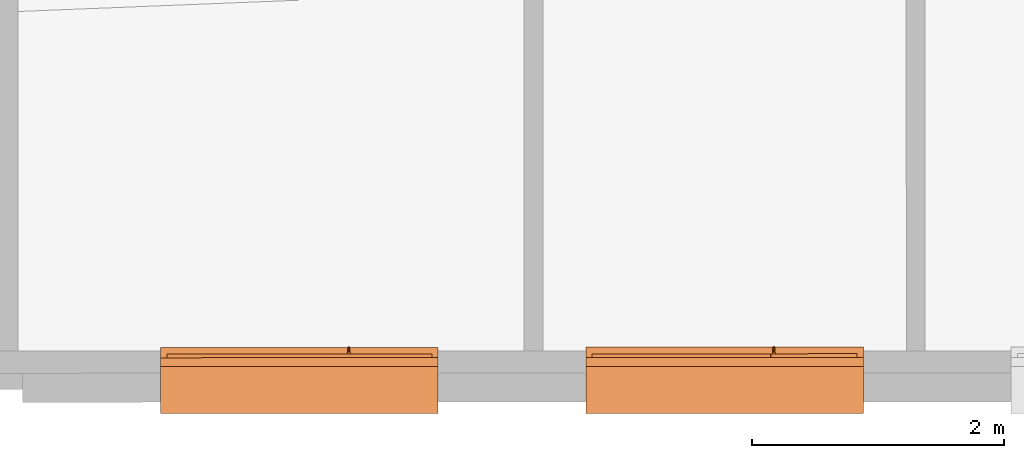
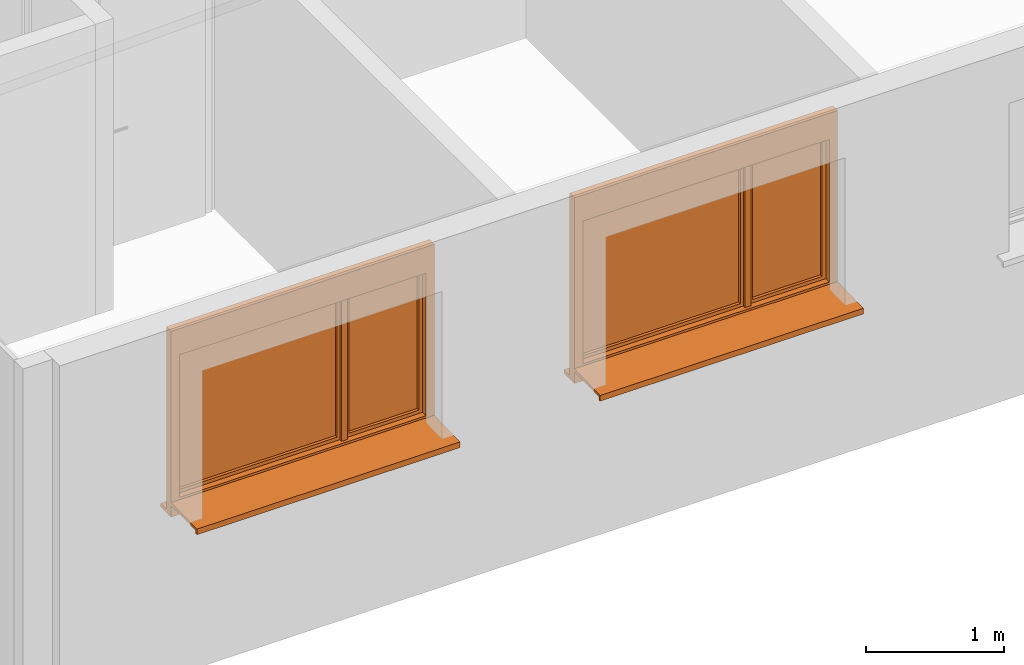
# One storey, part 3 of 8: 2 proxies.
"""IFC2X3 building model written with IfcOpenShell, lengths in metres."""

from ifc_helpers import new_model, entity, si_unit, converted_unit, derived_unit, direction, frame, origin, origin_with_axes, place, context, subcontext, project, spatial, closed_shell, open_shell, surface_model, source, transform, mapped, element, save


model = new_model("IFC2X3")

# Units and contexts
model_context = context("Model", 3, precision=1e-05, world=origin(), true_north=direction((0.772621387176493, -0.634867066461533)))
body_context = subcontext(model_context, "Body", "Model", "MODEL_VIEW")
ifc_project = project(units=[si_unit("LENGTHUNIT", "METRE"), si_unit("AREAUNIT", "SQUARE_METRE"), si_unit("VOLUMEUNIT", "CUBIC_METRE"), si_unit("MASSUNIT", "GRAM", prefix="KILO"), converted_unit("PLANEANGLEUNIT", "DEGREE", entity("IfcPlaneAngleMeasure", 0.0174532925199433), si_unit("PLANEANGLEUNIT", "RADIAN"), dimensions=[0, 0, 0, 0, 0, 0, 0]), derived_unit("THERMALTRANSMITTANCEUNIT", [(si_unit("POWERUNIT", "WATT"), 1), (si_unit("THERMODYNAMICTEMPERATUREUNIT", "KELVIN"), -1), (si_unit("LENGTHUNIT", "METRE"), -2)]), derived_unit("VOLUMETRICFLOWRATEUNIT", [(si_unit("LENGTHUNIT", "METRE"), 3), (converted_unit("TIMEUNIT", "hour", entity("IfcTimeMeasure", 3600.0), si_unit("TIMEUNIT", "SECOND"), dimensions=[0, 0, 1, 0, 0, 0, 0]), -1), (si_unit("LENGTHUNIT", "METRE"), -1)])], contexts=[model_context])

# Site, building, storey
site_placement = place(None, origin())
site = spatial("IfcSite", under=ifc_project, at=site_placement, Name="Modelle auf dem Nullpunkt", CompositionType="ELEMENT")
building_placement = place(site_placement, origin())
building = spatial("IfcBuilding", under=site, at=building_placement, Name="I", CompositionType="ELEMENT")
storey_placement = place(building_placement, origin())
storey = spatial("IfcBuildingStorey", under=building, at=storey_placement, Name="2.OG", CompositionType="ELEMENT", Elevation=0.0)

# Proxies
shared_shape_1 = source(origin_with_axes(), body_context, "Body", "SurfaceModel", [
    surface_model("IfcShellBasedSurfaceModel", [(0.0, 0.020000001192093, 0.1), (0.0, 0.372500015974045, 0.1), (0.0, 0.372500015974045, 0.13), (0.0, 0.0, 0.12), (0.0, 0.0, 0.07), (0.0, 0.020000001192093, 0.07), (2.19999999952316, 0.372500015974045, 0.1), (2.2, 0.020000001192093, 0.1), (2.2, 0.020000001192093, 0.07), (2.2, 0.0, 0.07), (2.2, 0.0, 0.12), (2.19999999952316, 0.372500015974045, 0.13)], [closed_shell([[[0, 1, 2, 3, 4, 5]], [[6, 7, 8, 9, 10, 11]], [[1, 0, 7, 6]], [[2, 1, 6, 11]], [[3, 2, 11, 10]], [[4, 3, 10, 9]], [[5, 4, 9, 8]], [[0, 5, 8, 7]]], orient=[[False], [False], [False], [False], [False], [False], [False], [False]])]),
    surface_model("IfcShellBasedSurfaceModel", [(0.0, 0.525000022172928, 0.0), (0.0, 0.525000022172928, 0.03), (0.0, 0.412500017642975, 0.03), (0.0, 0.412500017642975, 0.0), (2.2, 0.412500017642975, 0.0), (2.2, 0.412500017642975, 0.03), (2.19999999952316, 0.525000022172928, 0.03), (2.19999999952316, 0.525000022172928, 0.0)], [closed_shell([[[0, 1, 2, 3]], [[4, 5, 6, 7]], [[3, 4, 7, 0]], [[2, 5, 4, 3]], [[1, 6, 5, 2]], [[0, 7, 6, 1]]], orient=[[False], [False], [False], [False], [False], [False]])]),
    surface_model("IfcShellBasedSurfaceModel", [(0.0, 0.442500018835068, 1.64), (0.0, 0.442500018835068, 0.0), (0.0700000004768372, 0.442500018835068, 0.0), (0.0700000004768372, 0.442500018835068, 1.64), (0.0, 0.372500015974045, 0.0), (0.0, 0.372500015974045, 1.64), (0.07, 0.372500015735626, 1.64), (0.07, 0.372500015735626, 0.0)], [closed_shell([[[0, 1, 2, 3]], [[4, 5, 6, 7]], [[1, 0, 5, 4]], [[2, 1, 4, 7]], [[3, 2, 7, 6]], [[0, 3, 6, 5]]], orient=[[False], [False], [False], [False], [False], [False]])]),
    surface_model("IfcShellBasedSurfaceModel", [(2.12999999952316, 0.442500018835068, 1.64), (2.12999999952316, 0.442500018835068, 0.0), (2.2, 0.442500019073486, 0.0), (2.2, 0.442500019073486, 1.64), (2.12999999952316, 0.372500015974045, 0.0), (2.12999999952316, 0.372500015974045, 1.64), (2.19999999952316, 0.372500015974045, 1.64), (2.19999999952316, 0.372500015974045, 0.0)], [closed_shell([[[0, 1, 2, 3]], [[4, 5, 6, 7]], [[1, 0, 5, 4]], [[2, 1, 4, 7]], [[3, 2, 7, 6]], [[0, 3, 6, 5]]], orient=[[False], [False], [False], [False], [False], [False]])]),
    surface_model("IfcShellBasedSurfaceModel", [(0.0700000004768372, 0.442500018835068, 0.15), (0.0700000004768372, 0.442500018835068, 0.0), (2.12999999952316, 0.442500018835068, 0.0), (2.12999999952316, 0.442500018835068, 0.15), (0.07, 0.372500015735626, 0.0), (0.07, 0.372500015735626, 0.15), (2.12999999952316, 0.372500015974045, 0.15), (2.12999999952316, 0.372500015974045, 0.0)], [closed_shell([[[0, 1, 2, 3]], [[4, 5, 6, 7]], [[1, 0, 5, 4]], [[2, 1, 4, 7]], [[3, 2, 7, 6]], [[0, 3, 6, 5]]], orient=[[False], [False], [False], [False], [False], [False]])]),
    surface_model("IfcShellBasedSurfaceModel", [(0.0700000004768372, 0.442500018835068, 1.64), (0.0700000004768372, 0.442500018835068, 1.41), (2.12999999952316, 0.442500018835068, 1.41), (2.12999999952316, 0.442500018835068, 1.64), (0.07, 0.372500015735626, 1.41), (0.07, 0.372500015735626, 1.64), (2.12999999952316, 0.372500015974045, 1.64), (2.12999999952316, 0.372500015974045, 1.41)], [closed_shell([[[0, 1, 2, 3]], [[4, 5, 6, 7]], [[1, 0, 5, 4]], [[2, 1, 4, 7]], [[3, 2, 7, 6]], [[0, 3, 6, 5]]], orient=[[False], [False], [False], [False], [False], [False]])]),
    surface_model("IfcShellBasedSurfaceModel", [(0.0500000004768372, 0.472500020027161, 1.43), (0.0500000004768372, 0.472500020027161, 0.13), (0.100000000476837, 0.472500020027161, 0.13), (0.100000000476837, 0.472500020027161, 1.43), (0.0500000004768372, 0.422500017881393, 0.13), (0.0500000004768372, 0.422500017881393, 1.43), (0.1, 0.422500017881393, 1.43), (0.1, 0.422500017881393, 0.13)], [closed_shell([[[0, 1, 2, 3]], [[4, 5, 6, 7]], [[1, 0, 5, 4]], [[2, 1, 4, 7]], [[3, 2, 7, 6]], [[0, 3, 6, 5]]], orient=[[False], [False], [False], [False], [False], [False]])]),
    surface_model("IfcShellBasedSurfaceModel", [(1.41498387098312, 0.472500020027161, 1.43), (1.41498387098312, 0.472500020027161, 0.13), (1.46498387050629, 0.472500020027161, 0.13), (1.46498387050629, 0.472500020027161, 1.43), (1.41498387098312, 0.422500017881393, 0.13), (1.41498387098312, 0.422500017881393, 1.43), (1.46498387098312, 0.422500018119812, 1.43), (1.46498387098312, 0.422500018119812, 0.13)], [closed_shell([[[0, 1, 2, 3]], [[4, 5, 6, 7]], [[1, 0, 5, 4]], [[2, 1, 4, 7]], [[3, 2, 7, 6]], [[0, 3, 6, 5]]], orient=[[False], [False], [False], [False], [False], [False]])]),
    surface_model("IfcShellBasedSurfaceModel", [(0.100000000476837, 0.472500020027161, 0.18), (0.100000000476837, 0.472500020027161, 0.13), (1.41498387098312, 0.472500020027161, 0.13), (1.41498387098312, 0.472500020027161, 0.18), (0.1, 0.422500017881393, 0.13), (0.1, 0.422500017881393, 0.18), (1.41498387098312, 0.422500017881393, 0.18), (1.41498387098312, 0.422500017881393, 0.13)], [closed_shell([[[0, 1, 2, 3]], [[4, 5, 6, 7]], [[1, 0, 5, 4]], [[2, 1, 4, 7]], [[3, 2, 7, 6]], [[0, 3, 6, 5]]], orient=[[False], [False], [False], [False], [False], [False]])]),
    surface_model("IfcShellBasedSurfaceModel", [(0.100000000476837, 0.472500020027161, 1.43), (0.100000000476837, 0.472500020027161, 1.38), (1.41498387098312, 0.472500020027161, 1.38), (1.41498387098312, 0.472500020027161, 1.43), (0.1, 0.422500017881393, 1.38), (0.1, 0.422500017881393, 1.43), (1.41498387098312, 0.422500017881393, 1.43), (1.41498387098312, 0.422500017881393, 1.38)], [closed_shell([[[0, 1, 2, 3]], [[4, 5, 6, 7]], [[1, 0, 5, 4]], [[2, 1, 4, 7]], [[3, 2, 7, 6]], [[0, 3, 6, 5]]], orient=[[False], [False], [False], [False], [False], [False]])]),
    surface_model("IfcShellBasedSurfaceModel", [(1.43998387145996, 0.422500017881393, 1.41), (1.43998387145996, 0.422500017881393, 0.15), (1.48998387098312, 0.422500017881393, 0.15), (1.48998387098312, 0.422500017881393, 1.41), (1.43998387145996, 0.397500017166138, 0.15), (1.43998387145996, 0.397500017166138, 1.41), (1.48998387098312, 0.397500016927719, 1.41), (1.48998387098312, 0.397500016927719, 0.15)], [closed_shell([[[0, 1, 2, 3]], [[4, 5, 6, 7]], [[1, 0, 5, 4]], [[2, 1, 4, 7]], [[3, 2, 7, 6]], [[0, 3, 6, 5]]], orient=[[False], [False], [False], [False], [False], [False]])]),
    surface_model("IfcShellBasedSurfaceModel", [(1.46598387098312, 0.472500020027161, 1.43), (1.46598387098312, 0.472500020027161, 0.13), (1.51598387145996, 0.472500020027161, 0.13), (1.51598387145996, 0.472500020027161, 1.43), (1.46598387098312, 0.422500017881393, 0.13), (1.46598387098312, 0.422500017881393, 1.43), (1.51598387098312, 0.422500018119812, 1.43), (1.51598387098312, 0.422500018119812, 0.13)], [closed_shell([[[0, 1, 2, 3]], [[4, 5, 6, 7]], [[1, 0, 5, 4]], [[2, 1, 4, 7]], [[3, 2, 7, 6]], [[0, 3, 6, 5]]], orient=[[False], [False], [False], [False], [False], [False]])]),
    surface_model("IfcShellBasedSurfaceModel", [(2.1, 0.472500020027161, 1.43), (2.1, 0.472500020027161, 0.13), (2.15, 0.472500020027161, 0.13), (2.15, 0.472500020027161, 1.43), (2.09999999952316, 0.422500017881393, 0.13), (2.09999999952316, 0.422500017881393, 1.43), (2.15000000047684, 0.422500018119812, 1.43), (2.15000000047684, 0.422500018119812, 0.13)], [closed_shell([[[0, 1, 2, 3]], [[4, 5, 6, 7]], [[1, 0, 5, 4]], [[2, 1, 4, 7]], [[3, 2, 7, 6]], [[0, 3, 6, 5]]], orient=[[False], [False], [False], [False], [False], [False]])]),
    surface_model("IfcShellBasedSurfaceModel", [(1.51598387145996, 0.472500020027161, 0.18), (1.51598387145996, 0.472500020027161, 0.13), (2.1, 0.472500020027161, 0.13), (2.1, 0.472500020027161, 0.18), (1.51598387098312, 0.422500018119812, 0.13), (1.51598387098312, 0.422500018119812, 0.18), (2.09999999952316, 0.422500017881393, 0.18), (2.09999999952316, 0.422500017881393, 0.13)], [closed_shell([[[0, 1, 2, 3]], [[4, 5, 6, 7]], [[1, 0, 5, 4]], [[2, 1, 4, 7]], [[3, 2, 7, 6]], [[0, 3, 6, 5]]], orient=[[False], [False], [False], [False], [False], [False]])]),
    surface_model("IfcShellBasedSurfaceModel", [(1.51598387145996, 0.472500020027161, 1.43), (1.51598387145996, 0.472500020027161, 1.38), (2.1, 0.472500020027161, 1.38), (2.1, 0.472500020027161, 1.43), (1.51598387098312, 0.422500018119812, 1.38), (1.51598387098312, 0.422500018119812, 1.43), (2.09999999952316, 0.422500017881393, 1.43), (2.09999999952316, 0.422500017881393, 1.38)], [closed_shell([[[0, 1, 2, 3]], [[4, 5, 6, 7]], [[1, 0, 5, 4]], [[2, 1, 4, 7]], [[3, 2, 7, 6]], [[0, 3, 6, 5]]], orient=[[False], [False], [False], [False], [False], [False]])]),
    surface_model("IfcShellBasedSurfaceModel", [(1.47848387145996, 0.472500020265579, 0.75), (1.50348387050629, 0.472500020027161, 0.75), (1.50348387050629, 0.472500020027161, 0.71), (1.47848387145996, 0.472500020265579, 0.71), (1.47848387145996, 0.482500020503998, 0.71), (1.50348387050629, 0.482500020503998, 0.71), (1.50348387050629, 0.482500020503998, 0.75), (1.47848387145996, 0.482500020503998, 0.75)], [closed_shell([[[0, 1, 2, 3]], [[4, 5, 6, 7]], [[3, 4, 7, 0]], [[2, 5, 4, 3]], [[1, 6, 5, 2]], [[0, 7, 6, 1]]], orient=[[False], [False], [False], [False], [False], [False]])]),
    surface_model("IfcShellBasedSurfaceModel", [(1.50098387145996, 0.482500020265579, 0.73), (1.49964412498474, 0.482500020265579, 0.725), (1.49598387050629, 0.482500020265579, 0.721339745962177), (1.49098387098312, 0.482500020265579, 0.72), (1.48598387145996, 0.482500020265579, 0.721339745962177), (1.4823236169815, 0.482500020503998, 0.725), (1.48098387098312, 0.482500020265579, 0.73), (1.4823236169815, 0.482500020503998, 0.735), (1.48598387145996, 0.482500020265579, 0.738660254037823), (1.49098387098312, 0.482500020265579, 0.74), (1.49598387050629, 0.482500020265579, 0.738660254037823), (1.49964412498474, 0.482500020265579, 0.735), (1.49964412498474, 0.527500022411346, 0.735), (1.50098387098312, 0.522500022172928, 0.73), (1.49598387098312, 0.531160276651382, 0.738660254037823), (1.49098387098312, 0.532500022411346, 0.74), (1.48598387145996, 0.531160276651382, 0.738660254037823), (1.4823236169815, 0.527500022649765, 0.735), (1.48098387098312, 0.522500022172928, 0.73), (1.4823236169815, 0.517500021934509, 0.725), (1.48598387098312, 0.513839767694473, 0.721339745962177), (1.49098387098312, 0.512500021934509, 0.72), (1.49598387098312, 0.513839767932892, 0.721339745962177), (1.49964412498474, 0.517500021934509, 0.725), (1.50098387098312, 0.522500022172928, 0.615), (1.49964412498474, 0.527500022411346, 0.615), (1.49598387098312, 0.531160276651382, 0.615), (1.49098387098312, 0.532500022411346, 0.615), (1.48598387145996, 0.531160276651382, 0.615), (1.4823236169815, 0.527500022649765, 0.615), (1.48098387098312, 0.522500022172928, 0.615), (1.4823236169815, 0.517500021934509, 0.615), (1.48598387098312, 0.513839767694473, 0.615), (1.49098387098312, 0.512500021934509, 0.615), (1.49598387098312, 0.513839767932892, 0.615), (1.49964412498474, 0.517500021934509, 0.615)], [closed_shell([[[0, 1, 2, 3, 4, 5, 6, 7, 8, 9, 10, 11]], [[0, 11, 12, 13]], [[11, 10, 14, 12]], [[10, 9, 15, 14]], [[9, 8, 16, 15]], [[8, 7, 17, 16]], [[7, 6, 18, 17]], [[6, 5, 19, 18]], [[5, 4, 20, 19]], [[4, 3, 21, 20]], [[3, 2, 22, 21]], [[2, 1, 23, 22]], [[1, 0, 13, 23]], [[24, 25, 26, 27, 28, 29, 30, 31, 32, 33, 34, 35]], [[13, 12, 25, 24]], [[12, 14, 26, 25]], [[14, 15, 27, 26]], [[15, 16, 28, 27]], [[16, 17, 29, 28]], [[17, 18, 30, 29]], [[18, 19, 31, 30]], [[19, 20, 32, 31]], [[20, 21, 33, 32]], [[21, 22, 34, 33]], [[22, 23, 35, 34]], [[23, 13, 24, 35]]], orient=[[False], [False], [False], [False], [False], [False], [False], [False], [False], [False], [False], [False], [False], [False], [False], [False], [False], [False], [False], [False], [False], [False], [False], [False], [False], [False]])]),
    surface_model("IfcShellBasedSurfaceModel", [(0.100000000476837, 0.447500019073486, 0.18), (1.41498387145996, 0.447500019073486, 0.18), (1.41498387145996, 0.447500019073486, 1.38), (0.100000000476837, 0.447500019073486, 1.38)], [open_shell([[[0, 1, 2, 3]]], orient=[[False]])]),
    surface_model("IfcShellBasedSurfaceModel", [(1.51598387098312, 0.447500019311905, 0.18), (2.1, 0.447500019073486, 0.18), (2.1, 0.447500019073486, 1.38), (1.51598387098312, 0.447500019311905, 1.38)], [open_shell([[[0, 1, 2, 3]]], orient=[[False]])]),
])
proxy_1_placement = place(storey_placement, frame((30.6756132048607, -8.23292398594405, 442.6), z_axis=(0.0, 0.0, 1.0), x_axis=(0.999999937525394, 0.000353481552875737, 0.0)))
element("IfcBuildingElementProxy", 1, at=proxy_1_placement, inside=storey, Name="2flg Weiß Stulp", context=body_context, shape_type="MappedRepresentation", body=[
    mapped(shared_shape_1, transform((0.0, 0.0, 0.0), x_axis=(1.0, 0.0, 0.0), y_axis=(0.0, 1.0, 0.0), z_axis=(0.0, 0.0, 1.0), scale=1.0)),
])
shared_shape_2 = source(origin_with_axes(), body_context, "Body", "SurfaceModel", [
    surface_model("IfcShellBasedSurfaceModel", [(0.0, 0.020000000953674, 0.1), (0.0, 0.372500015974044, 0.1), (0.0, 0.372500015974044, 0.13), (0.0, 0.0, 0.12), (0.0, 0.0, 0.07), (0.0, 0.020000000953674, 0.07), (2.20000000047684, 0.372500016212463, 0.1), (2.20000000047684, 0.020000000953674, 0.1), (2.20000000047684, 0.020000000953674, 0.07), (2.20000000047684, 0.0, 0.07), (2.20000000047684, 0.0, 0.12), (2.20000000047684, 0.372500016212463, 0.13)], [closed_shell([[[0, 1, 2, 3, 4, 5]], [[6, 7, 8, 9, 10, 11]], [[1, 0, 7, 6]], [[2, 1, 6, 11]], [[3, 2, 11, 10]], [[4, 3, 10, 9]], [[5, 4, 9, 8]], [[0, 5, 8, 7]]], orient=[[False], [False], [False], [False], [False], [False], [False], [False]])]),
    surface_model("IfcShellBasedSurfaceModel", [(0.0, 0.525000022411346, 0.0), (0.0, 0.525000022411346, 0.03), (0.0, 0.412500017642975, 0.03), (0.0, 0.412500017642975, 0.0), (2.20000000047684, 0.412500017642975, 0.0), (2.20000000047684, 0.412500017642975, 0.03), (2.20000000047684, 0.525000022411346, 0.03), (2.20000000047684, 0.525000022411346, 0.0)], [closed_shell([[[0, 1, 2, 3]], [[4, 5, 6, 7]], [[3, 4, 7, 0]], [[2, 5, 4, 3]], [[1, 6, 5, 2]], [[0, 7, 6, 1]]], orient=[[False], [False], [False], [False], [False], [False]])]),
    surface_model("IfcShellBasedSurfaceModel", [(0.0, 0.442500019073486, 1.64), (0.0, 0.442500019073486, 0.0), (0.0700000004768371, 0.442500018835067, 0.0), (0.0700000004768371, 0.442500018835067, 1.64), (0.0, 0.372500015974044, 0.0), (0.0, 0.372500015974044, 1.64), (0.0700000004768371, 0.372500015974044, 1.64), (0.0700000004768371, 0.372500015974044, 0.0)], [closed_shell([[[0, 1, 2, 3]], [[4, 5, 6, 7]], [[1, 0, 5, 4]], [[2, 1, 4, 7]], [[3, 2, 7, 6]], [[0, 3, 6, 5]]], orient=[[False], [False], [False], [False], [False], [False]])]),
    surface_model("IfcShellBasedSurfaceModel", [(2.13000000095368, 0.442500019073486, 1.64), (2.13000000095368, 0.442500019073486, 0.0), (2.20000000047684, 0.442500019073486, 0.0), (2.20000000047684, 0.442500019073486, 1.64), (2.13000000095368, 0.372500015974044, 0.0), (2.13000000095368, 0.372500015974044, 1.64), (2.20000000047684, 0.372500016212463, 1.64), (2.20000000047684, 0.372500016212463, 0.0)], [closed_shell([[[0, 1, 2, 3]], [[4, 5, 6, 7]], [[1, 0, 5, 4]], [[2, 1, 4, 7]], [[3, 2, 7, 6]], [[0, 3, 6, 5]]], orient=[[False], [False], [False], [False], [False], [False]])]),
    surface_model("IfcShellBasedSurfaceModel", [(0.0700000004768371, 0.442500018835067, 0.15), (0.0700000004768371, 0.442500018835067, 0.0), (2.13000000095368, 0.442500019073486, 0.0), (2.13000000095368, 0.442500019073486, 0.15), (0.0700000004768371, 0.372500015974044, 0.0), (0.0700000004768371, 0.372500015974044, 0.15), (2.13000000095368, 0.372500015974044, 0.15), (2.13000000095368, 0.372500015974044, 0.0)], [closed_shell([[[0, 1, 2, 3]], [[4, 5, 6, 7]], [[1, 0, 5, 4]], [[2, 1, 4, 7]], [[3, 2, 7, 6]], [[0, 3, 6, 5]]], orient=[[False], [False], [False], [False], [False], [False]])]),
    surface_model("IfcShellBasedSurfaceModel", [(0.0700000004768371, 0.442500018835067, 1.64), (0.0700000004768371, 0.442500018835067, 1.41), (2.13000000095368, 0.442500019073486, 1.41), (2.13000000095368, 0.442500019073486, 1.64), (0.0700000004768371, 0.372500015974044, 1.41), (0.0700000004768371, 0.372500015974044, 1.64), (2.13000000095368, 0.372500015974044, 1.64), (2.13000000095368, 0.372500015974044, 1.41)], [closed_shell([[[0, 1, 2, 3]], [[4, 5, 6, 7]], [[1, 0, 5, 4]], [[2, 1, 4, 7]], [[3, 2, 7, 6]], [[0, 3, 6, 5]]], orient=[[False], [False], [False], [False], [False], [False]])]),
    surface_model("IfcShellBasedSurfaceModel", [(0.05, 0.472500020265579, 1.43), (0.05, 0.472500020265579, 0.13), (0.100000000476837, 0.472500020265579, 0.13), (0.100000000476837, 0.472500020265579, 1.43), (0.0500000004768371, 0.422500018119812, 0.13), (0.0500000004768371, 0.422500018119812, 1.43), (0.100000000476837, 0.422500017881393, 1.43), (0.100000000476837, 0.422500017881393, 0.13)], [closed_shell([[[0, 1, 2, 3]], [[4, 5, 6, 7]], [[1, 0, 5, 4]], [[2, 1, 4, 7]], [[3, 2, 7, 6]], [[0, 3, 6, 5]]], orient=[[False], [False], [False], [False], [False], [False]])]),
    surface_model("IfcShellBasedSurfaceModel", [(1.41498387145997, 0.472500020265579, 1.43), (1.41498387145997, 0.472500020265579, 0.13), (1.46498387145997, 0.472500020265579, 0.13), (1.46498387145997, 0.472500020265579, 1.43), (1.41498387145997, 0.422500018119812, 0.13), (1.41498387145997, 0.422500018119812, 1.43), (1.4649838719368, 0.422500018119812, 1.43), (1.4649838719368, 0.422500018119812, 0.13)], [closed_shell([[[0, 1, 2, 3]], [[4, 5, 6, 7]], [[1, 0, 5, 4]], [[2, 1, 4, 7]], [[3, 2, 7, 6]], [[0, 3, 6, 5]]], orient=[[False], [False], [False], [False], [False], [False]])]),
    surface_model("IfcShellBasedSurfaceModel", [(0.100000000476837, 0.472500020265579, 0.18), (0.100000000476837, 0.472500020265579, 0.13), (1.41498387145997, 0.472500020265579, 0.13), (1.41498387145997, 0.472500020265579, 0.18), (0.100000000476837, 0.422500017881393, 0.13), (0.100000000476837, 0.422500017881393, 0.18), (1.41498387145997, 0.422500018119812, 0.18), (1.41498387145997, 0.422500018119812, 0.13)], [closed_shell([[[0, 1, 2, 3]], [[4, 5, 6, 7]], [[1, 0, 5, 4]], [[2, 1, 4, 7]], [[3, 2, 7, 6]], [[0, 3, 6, 5]]], orient=[[False], [False], [False], [False], [False], [False]])]),
    surface_model("IfcShellBasedSurfaceModel", [(0.100000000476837, 0.472500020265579, 1.43), (0.100000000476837, 0.472500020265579, 1.38), (1.41498387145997, 0.472500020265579, 1.38), (1.41498387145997, 0.472500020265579, 1.43), (0.100000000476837, 0.422500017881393, 1.38), (0.100000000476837, 0.422500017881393, 1.43), (1.41498387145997, 0.422500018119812, 1.43), (1.41498387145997, 0.422500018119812, 1.38)], [closed_shell([[[0, 1, 2, 3]], [[4, 5, 6, 7]], [[1, 0, 5, 4]], [[2, 1, 4, 7]], [[3, 2, 7, 6]], [[0, 3, 6, 5]]], orient=[[False], [False], [False], [False], [False], [False]])]),
    surface_model("IfcShellBasedSurfaceModel", [(1.43998387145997, 0.422500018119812, 1.41), (1.43998387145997, 0.422500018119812, 0.15), (1.48998387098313, 0.422500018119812, 0.15), (1.48998387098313, 0.422500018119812, 1.41), (1.43998387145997, 0.397500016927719, 0.15), (1.43998387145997, 0.397500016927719, 1.41), (1.48998387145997, 0.397500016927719, 1.41), (1.48998387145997, 0.397500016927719, 0.15)], [closed_shell([[[0, 1, 2, 3]], [[4, 5, 6, 7]], [[1, 0, 5, 4]], [[2, 1, 4, 7]], [[3, 2, 7, 6]], [[0, 3, 6, 5]]], orient=[[False], [False], [False], [False], [False], [False]])]),
    surface_model("IfcShellBasedSurfaceModel", [(1.46598387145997, 0.472500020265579, 1.43), (1.46598387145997, 0.472500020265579, 0.13), (1.51598387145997, 0.472500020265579, 0.13), (1.51598387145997, 0.472500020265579, 1.43), (1.4659838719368, 0.422500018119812, 0.13), (1.4659838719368, 0.422500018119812, 1.43), (1.51598387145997, 0.422500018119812, 1.43), (1.51598387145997, 0.422500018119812, 0.13)], [closed_shell([[[0, 1, 2, 3]], [[4, 5, 6, 7]], [[1, 0, 5, 4]], [[2, 1, 4, 7]], [[3, 2, 7, 6]], [[0, 3, 6, 5]]], orient=[[False], [False], [False], [False], [False], [False]])]),
    surface_model("IfcShellBasedSurfaceModel", [(2.10000000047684, 0.472500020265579, 1.43), (2.10000000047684, 0.472500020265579, 0.13), (2.15000000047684, 0.472500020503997, 0.13), (2.15000000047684, 0.472500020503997, 1.43), (2.10000000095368, 0.422500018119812, 0.13), (2.10000000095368, 0.422500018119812, 1.43), (2.15000000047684, 0.422500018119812, 1.43), (2.15000000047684, 0.422500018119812, 0.13)], [closed_shell([[[0, 1, 2, 3]], [[4, 5, 6, 7]], [[1, 0, 5, 4]], [[2, 1, 4, 7]], [[3, 2, 7, 6]], [[0, 3, 6, 5]]], orient=[[False], [False], [False], [False], [False], [False]])]),
    surface_model("IfcShellBasedSurfaceModel", [(1.51598387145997, 0.472500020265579, 0.18), (1.51598387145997, 0.472500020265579, 0.13), (2.10000000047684, 0.472500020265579, 0.13), (2.10000000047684, 0.472500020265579, 0.18), (1.51598387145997, 0.422500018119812, 0.13), (1.51598387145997, 0.422500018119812, 0.18), (2.10000000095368, 0.422500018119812, 0.18), (2.10000000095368, 0.422500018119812, 0.13)], [closed_shell([[[0, 1, 2, 3]], [[4, 5, 6, 7]], [[1, 0, 5, 4]], [[2, 1, 4, 7]], [[3, 2, 7, 6]], [[0, 3, 6, 5]]], orient=[[False], [False], [False], [False], [False], [False]])]),
    surface_model("IfcShellBasedSurfaceModel", [(1.51598387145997, 0.472500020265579, 1.43), (1.51598387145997, 0.472500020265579, 1.38), (2.10000000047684, 0.472500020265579, 1.38), (2.10000000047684, 0.472500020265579, 1.43), (1.51598387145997, 0.422500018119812, 1.38), (1.51598387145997, 0.422500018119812, 1.43), (2.10000000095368, 0.422500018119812, 1.43), (2.10000000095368, 0.422500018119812, 1.38)], [closed_shell([[[0, 1, 2, 3]], [[4, 5, 6, 7]], [[1, 0, 5, 4]], [[2, 1, 4, 7]], [[3, 2, 7, 6]], [[0, 3, 6, 5]]], orient=[[False], [False], [False], [False], [False], [False]])]),
    surface_model("IfcShellBasedSurfaceModel", [(1.47848387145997, 0.472500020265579, 0.75), (1.50348387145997, 0.472500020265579, 0.75), (1.50348387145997, 0.472500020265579, 0.71), (1.47848387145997, 0.472500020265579, 0.71), (1.47848387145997, 0.482500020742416, 0.71), (1.50348387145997, 0.482500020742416, 0.71), (1.50348387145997, 0.482500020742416, 0.75), (1.47848387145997, 0.482500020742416, 0.75)], [closed_shell([[[0, 1, 2, 3]], [[4, 5, 6, 7]], [[3, 4, 7, 0]], [[2, 5, 4, 3]], [[1, 6, 5, 2]], [[0, 7, 6, 1]]], orient=[[False], [False], [False], [False], [False], [False]])]),
    surface_model("IfcShellBasedSurfaceModel", [(1.50098387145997, 0.482500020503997, 0.73), (1.49964412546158, 0.482500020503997, 0.725), (1.49598387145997, 0.482500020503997, 0.721339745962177), (1.49098387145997, 0.482500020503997, 0.72), (1.48598387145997, 0.482500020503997, 0.721339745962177), (1.48232361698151, 0.482500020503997, 0.725), (1.48098387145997, 0.482500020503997, 0.73), (1.48232361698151, 0.482500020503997, 0.735), (1.48598387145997, 0.482500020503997, 0.738660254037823), (1.49098387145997, 0.482500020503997, 0.74), (1.49598387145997, 0.482500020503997, 0.738660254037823), (1.49964412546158, 0.482500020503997, 0.735), (1.49964412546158, 0.527500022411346, 0.735), (1.50098387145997, 0.522500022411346, 0.73), (1.49598387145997, 0.531160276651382, 0.738660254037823), (1.49098387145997, 0.532500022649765, 0.74), (1.4859838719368, 0.531160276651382, 0.738660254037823), (1.48232361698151, 0.527500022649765, 0.735), (1.48098387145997, 0.522500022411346, 0.73), (1.48232361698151, 0.517500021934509, 0.725), (1.48598387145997, 0.513839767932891, 0.721339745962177), (1.49098387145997, 0.512500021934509, 0.72), (1.49598387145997, 0.513839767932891, 0.721339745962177), (1.49964412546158, 0.517500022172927, 0.725), (1.50098387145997, 0.522500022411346, 0.615), (1.49964412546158, 0.527500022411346, 0.615), (1.49598387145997, 0.531160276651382, 0.615), (1.49098387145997, 0.532500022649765, 0.615), (1.4859838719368, 0.531160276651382, 0.615), (1.48232361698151, 0.527500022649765, 0.615), (1.48098387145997, 0.522500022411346, 0.615), (1.48232361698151, 0.517500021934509, 0.615), (1.48598387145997, 0.513839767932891, 0.615), (1.49098387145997, 0.512500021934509, 0.615), (1.49598387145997, 0.513839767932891, 0.615), (1.49964412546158, 0.517500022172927, 0.615)], [closed_shell([[[0, 1, 2, 3, 4, 5, 6, 7, 8, 9, 10, 11]], [[0, 11, 12, 13]], [[11, 10, 14, 12]], [[10, 9, 15, 14]], [[9, 8, 16, 15]], [[8, 7, 17, 16]], [[7, 6, 18, 17]], [[6, 5, 19, 18]], [[5, 4, 20, 19]], [[4, 3, 21, 20]], [[3, 2, 22, 21]], [[2, 1, 23, 22]], [[1, 0, 13, 23]], [[24, 25, 26, 27, 28, 29, 30, 31, 32, 33, 34, 35]], [[13, 12, 25, 24]], [[12, 14, 26, 25]], [[14, 15, 27, 26]], [[15, 16, 28, 27]], [[16, 17, 29, 28]], [[17, 18, 30, 29]], [[18, 19, 31, 30]], [[19, 20, 32, 31]], [[20, 21, 33, 32]], [[21, 22, 34, 33]], [[22, 23, 35, 34]], [[23, 13, 24, 35]]], orient=[[False], [False], [False], [False], [False], [False], [False], [False], [False], [False], [False], [False], [False], [False], [False], [False], [False], [False], [False], [False], [False], [False], [False], [False], [False], [False]])]),
    surface_model("IfcShellBasedSurfaceModel", [(0.100000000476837, 0.447500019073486, 0.18), (1.41498387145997, 0.447500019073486, 0.18), (1.41498387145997, 0.447500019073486, 1.38), (0.100000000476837, 0.447500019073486, 1.38)], [open_shell([[[0, 1, 2, 3]]], orient=[[False]])]),
    surface_model("IfcShellBasedSurfaceModel", [(1.51598387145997, 0.447500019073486, 0.18), (2.10000000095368, 0.447500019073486, 0.18), (2.10000000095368, 0.447500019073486, 1.38), (1.51598387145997, 0.447500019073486, 1.38)], [open_shell([[[0, 1, 2, 3]]], orient=[[False]])]),
])
proxy_2_placement = place(storey_placement, frame((34.0456129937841, -8.2317327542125, 442.6), z_axis=(0.0, 0.0, 1.0), x_axis=(0.999999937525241, 0.000353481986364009, 0.0)))
element("IfcBuildingElementProxy", 2, at=proxy_2_placement, inside=storey, Name="2flg Weiß Stulp", context=body_context, shape_type="MappedRepresentation", body=[
    mapped(shared_shape_2, transform((0.0, 0.0, 0.0), x_axis=(1.0, 0.0, 0.0), y_axis=(0.0, 1.0, 0.0), z_axis=(0.0, 0.0, 1.0), scale=1.0)),
])

save(model, "model.ifc")
